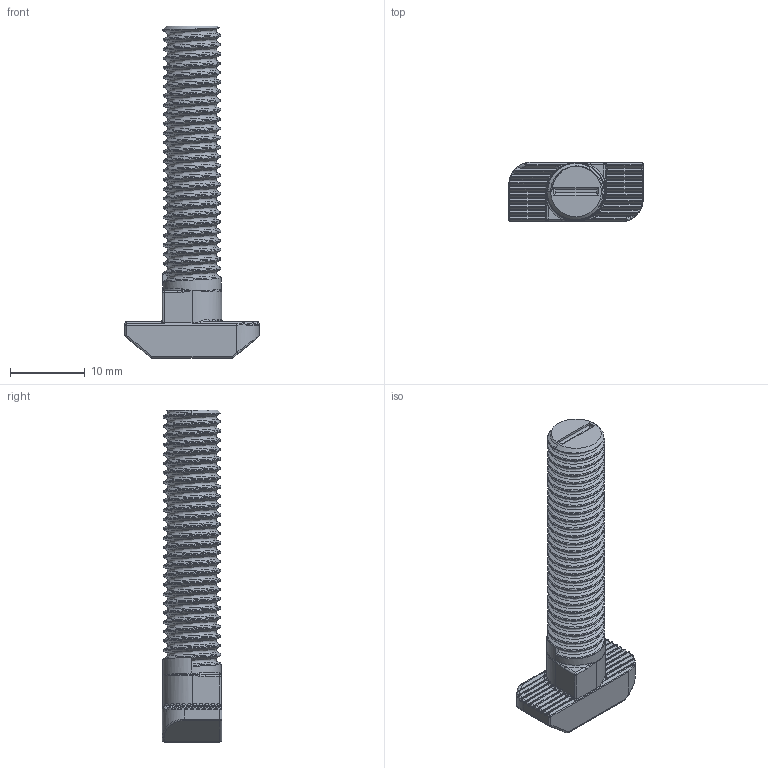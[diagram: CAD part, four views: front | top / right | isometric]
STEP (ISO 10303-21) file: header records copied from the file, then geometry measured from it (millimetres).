
FILE_DESCRIPTION (( 'STEP AP203' ), '1' );
FILE_NAME ('5263.STEP', '2017-02-02T06:04:04', ( 'RosInstal-MKM' ), ( '' ), 'SwSTEP 2.0', 'SolidWorks 2014', '' );
FILE_SCHEMA (( 'CONFIG_CONTROL_DESIGN' ));
Length unit declared in the file: millimetre
Products named in the file (1): 5263
Bounding box: 18 x 8 x 44.5 mm (x, y, z)
Volume: 2215.1 mm3; surface area: 1751 mm2
Topology: 1 solids, 1 shells, 371 faces, 894 edges, 472 vertices
Faces by surface type: bspline 143, cylinder 127, plane 61, torus 29, sphere 10, cone 1
Entity records: 21876 total; most frequent: CARTESIAN_POINT 14705, ORIENTED_EDGE 1680, DIRECTION 1284, EDGE_CURVE 840, AXIS2_PLACEMENT_3D 514, VERTEX_POINT 472, EDGE_LOOP 372, ADVANCED_FACE 371
